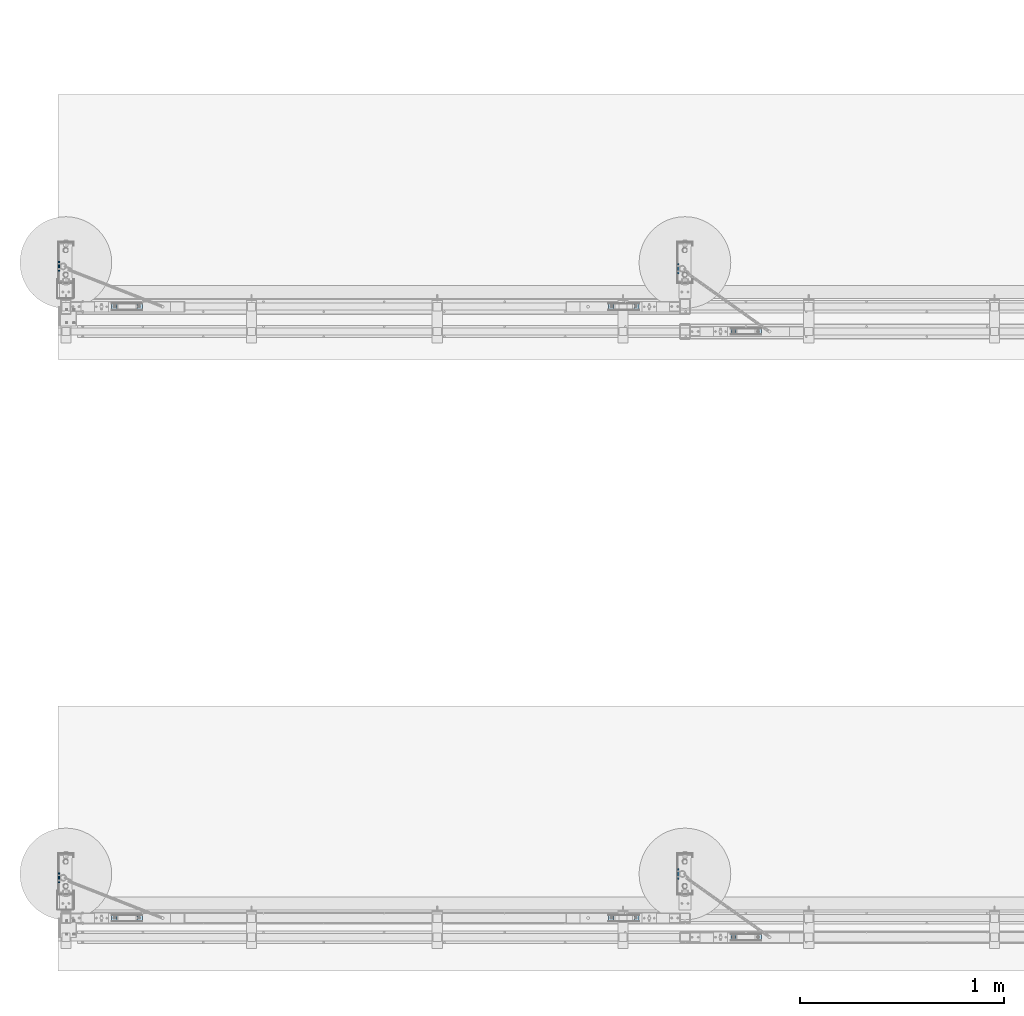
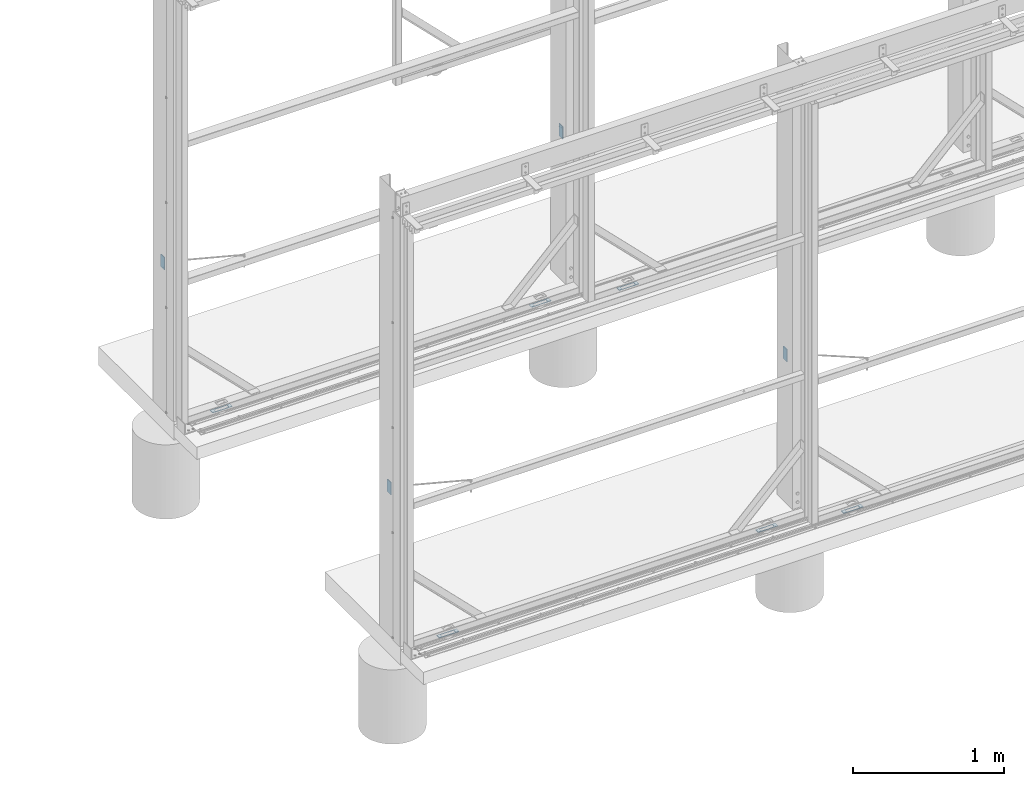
# One storey, part 10 of 91: 10 plates, 10 elements without a shape of their own.
"""IFC2X3 building model written with IfcOpenShell, lengths in millimetres."""

from ifc_helpers import new_model, si_unit, frame, origin_with_axes, place, context, subcontext, project, spatial, polyline, outline, extrude, boolean, material, type_object, element, aggregate, save


model = new_model("IFC2X3")

# Units and contexts
model_context = context("Model", 3, precision=1e-05, world=origin_with_axes())
body_context = subcontext(model_context, "Body", "Model", "MODEL_VIEW")
ifc_project = project(units=[si_unit("LENGTHUNIT", "METRE", prefix="MILLI"), si_unit("AREAUNIT", "SQUARE_METRE"), si_unit("VOLUMEUNIT", "CUBIC_METRE"), si_unit("MASSUNIT", "GRAM", prefix="KILO"), si_unit("TIMEUNIT", "SECOND"), si_unit("PLANEANGLEUNIT", "RADIAN"), si_unit("SOLIDANGLEUNIT", "STERADIAN"), si_unit("THERMODYNAMICTEMPERATUREUNIT", "DEGREE_CELSIUS"), si_unit("LUMINOUSINTENSITYUNIT", "LUMEN")], contexts=[model_context])

# Site, building, storey
site_placement = place(None, origin_with_axes())
site = spatial("IfcSite", under=ifc_project, at=site_placement, Name="Undefined", CompositionType="ELEMENT")
building_placement = place(site_placement, origin_with_axes())
building = spatial("IfcBuilding", under=site, at=building_placement, Name="Undefined", CompositionType="ELEMENT")
storey_placement = place(building_placement, origin_with_axes())
storey = spatial("IfcBuildingStorey", under=building, at=storey_placement, Name="Undefined", CompositionType="ELEMENT", Elevation=0.0)

# Assembly, plate
assembly_1_placement = place(storey_placement, origin_with_axes())
assembly_1 = element("IfcElementAssembly", 1, at=assembly_1_placement, inside=storey, Name="PLATE", AssemblyPlace="NOTDEFINED", PredefinedType="RIGID_FRAME")
ifc_material = material(Name="STEEL/250")
plate_type_1 = type_object("IfcPlateType", Name="FL6*50", PredefinedType="NOTDEFINED")
plate_1_placement = place(assembly_1_placement, frame((-113791.442606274, 87923.3982218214, 1112.34), z_axis=(1.0, 0.0, 0.0), x_axis=(0.0, 0.0, 1.0)))
plate_1 = element("IfcPlate", 2, at=plate_1_placement, type_object=plate_type_1, material=ifc_material, Name="PLATE", ObjectType="FL6*50", context=body_context, shape_type="SweptSolid", body=[
    extrude(outline(polyline([(0.0, 0.0), (100.0, 0.0), (100.0, 50.0), (0.0, 50.0), (0.0, 0.0)])), frame((0.0, 0.0, -3.0), z_axis=(0.0, 0.0, 1.0), x_axis=(1.0, 0.0, 0.0)), (0.0, 0.0, 1.0), 6.0),
])
aggregate(assembly_1, [plate_1])

assembly_2_placement = place(storey_placement, origin_with_axes())
assembly_2 = element("IfcElementAssembly", 3, at=assembly_2_placement, inside=storey, Name="PLATE", AssemblyPlace="NOTDEFINED", PredefinedType="RIGID_FRAME")
plate_2_placement = place(assembly_2_placement, frame((-116828.942606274, 87934.8982218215, 1112.34), z_axis=(1.0, 0.0, 0.0), x_axis=(0.0, 0.0, 1.0)))
plate_2 = element("IfcPlate", 4, at=plate_2_placement, type_object=plate_type_1, material=ifc_material, Name="PLATE", ObjectType="FL6*50", context=body_context, shape_type="SweptSolid", body=[
    extrude(outline(polyline([(0.0, 0.0), (100.0, 0.0), (100.0, 50.0), (0.0, 50.0), (0.0, 0.0)])), frame((0.0, 0.0, -3.0), z_axis=(0.0, 0.0, 1.0), x_axis=(1.0, 0.0, 0.0)), (0.0, 0.0, 1.0), 6.0),
])
aggregate(assembly_2, [plate_2])

assembly_3_placement = place(storey_placement, origin_with_axes())
assembly_3 = element("IfcElementAssembly", 5, at=assembly_3_placement, inside=storey, Name="PLATE", AssemblyPlace="NOTDEFINED", PredefinedType="RIGID_FRAME")
plate_3_placement = place(assembly_3_placement, frame((-113791.442606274, 84953.6482218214, 1112.34), z_axis=(1.0, 0.0, 0.0), x_axis=(0.0, 0.0, 1.0)))
plate_3 = element("IfcPlate", 6, at=plate_3_placement, type_object=plate_type_1, material=ifc_material, Name="PLATE", ObjectType="FL6*50", context=body_context, shape_type="SweptSolid", body=[
    extrude(outline(polyline([(0.0, 0.0), (100.0, 0.0), (100.0, 50.0), (0.0, 50.0), (0.0, 0.0)])), frame((0.0, 0.0, -3.0), z_axis=(0.0, 0.0, 1.0), x_axis=(1.0, 0.0, 0.0)), (0.0, 0.0, 1.0), 6.0),
])
aggregate(assembly_3, [plate_3])

assembly_4_placement = place(storey_placement, origin_with_axes())
assembly_4 = element("IfcElementAssembly", 7, at=assembly_4_placement, inside=storey, Name="PLATE", AssemblyPlace="NOTDEFINED", PredefinedType="RIGID_FRAME")
plate_4_placement = place(assembly_4_placement, frame((-116828.942606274, 84934.8982218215, 1112.34), z_axis=(1.0, 0.0, 0.0), x_axis=(0.0, 0.0, 1.0)))
plate_4 = element("IfcPlate", 8, at=plate_4_placement, type_object=plate_type_1, material=ifc_material, Name="PLATE", ObjectType="FL6*50", context=body_context, shape_type="SweptSolid", body=[
    extrude(outline(polyline([(0.0, 0.0), (100.0, 0.0), (100.0, 50.0), (0.0, 50.0), (0.0, 0.0)])), frame((0.0, 0.0, -3.0), z_axis=(0.0, 0.0, 1.0), x_axis=(1.0, 0.0, 0.0)), (0.0, 0.0, 1.0), 6.0),
])
aggregate(assembly_4, [plate_4])

assembly_5_placement = place(storey_placement, origin_with_axes())
assembly_5 = element("IfcElementAssembly", 9, at=assembly_5_placement, inside=storey, Name="PLATE", AssemblyPlace="NOTDEFINED", PredefinedType="RIGID_FRAME")
plate_type_2 = type_object("IfcPlateType", Name="PLT2*33", PredefinedType="NOTDEFINED")
plate_5_placement = place(assembly_5_placement, frame((-113533.34, 87573.65, -18.0), z_axis=(0.0, 0.0, -1.0), x_axis=(0.0, 1.0, 0.0)))
plate_5 = element("IfcPlate", 10, at=plate_5_placement, type_object=plate_type_2, material=ifc_material, Name="PLATE", ObjectType="PLT2*33", context=body_context, shape_type="CSG", body=[
    boolean("DIFFERENCE", extrude(outline(polyline([(0.0, 0.0), (33.0, 0.0), (33.0, 150.0), (0.0, 150.0), (0.0, 0.0)])), frame((0.0, 0.0, -1.0), z_axis=(0.0, 0.0, 1.0), x_axis=(1.0, 0.0, 0.0)), (0.0, 0.0, 1.0), 2.0), extrude(outline(polyline([(0.0, 0.0), (27.0, 0.0), (27.0, 100.0), (0.0, 100.0), (0.0, 0.0)])), frame((30.0037103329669, 25.0032500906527, 3.5), z_axis=(0.0, 0.0, -1.0), x_axis=(-1.0, 0.0, 0.0)), (0.0, 0.0, 1.0), 7.0)),
])
aggregate(assembly_5, [plate_5])

assembly_6_placement = place(storey_placement, origin_with_axes())
assembly_6 = element("IfcElementAssembly", 11, at=assembly_6_placement, inside=storey, Name="PLATE", AssemblyPlace="NOTDEFINED", PredefinedType="RIGID_FRAME")
plate_6_placement = place(assembly_6_placement, frame((-114133.34, 87695.65, -18.0), z_axis=(0.0, 0.0, -1.0), x_axis=(0.0, 1.0, 0.0)))
plate_6 = element("IfcPlate", 12, at=plate_6_placement, type_object=plate_type_2, material=ifc_material, Name="PLATE", ObjectType="PLT2*33", context=body_context, shape_type="CSG", body=[
    boolean("DIFFERENCE", extrude(outline(polyline([(0.0, 0.0), (33.0, 0.0), (33.0, 150.0), (0.0, 150.0), (0.0, 0.0)])), frame((0.0, 0.0, -1.0), z_axis=(0.0, 0.0, 1.0), x_axis=(1.0, 0.0, 0.0)), (0.0, 0.0, 1.0), 2.0), extrude(outline(polyline([(0.0, 0.0), (27.0, 0.0), (27.0, 100.0), (0.0, 100.0), (0.0, 0.0)])), frame((30.0037103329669, 25.0032500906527, 3.5), z_axis=(0.0, 0.0, -1.0), x_axis=(-1.0, 0.0, 0.0)), (0.0, 0.0, 1.0), 7.0)),
])
aggregate(assembly_6, [plate_6])

assembly_7_placement = place(storey_placement, origin_with_axes())
assembly_7 = element("IfcElementAssembly", 13, at=assembly_7_placement, inside=storey, Name="PLATE", AssemblyPlace="NOTDEFINED", PredefinedType="RIGID_FRAME")
plate_7_placement = place(assembly_7_placement, frame((-116570.84, 87695.65, -18.0), z_axis=(0.0, 0.0, -1.0), x_axis=(0.0, 1.0, 0.0)))
plate_7 = element("IfcPlate", 14, at=plate_7_placement, type_object=plate_type_2, material=ifc_material, Name="PLATE", ObjectType="PLT2*33", context=body_context, shape_type="CSG", body=[
    boolean("DIFFERENCE", extrude(outline(polyline([(0.0, 0.0), (33.0, 0.0), (33.0, 150.0), (0.0, 150.0), (0.0, 0.0)])), frame((0.0, 0.0, -1.0), z_axis=(0.0, 0.0, 1.0), x_axis=(1.0, 0.0, 0.0)), (0.0, 0.0, 1.0), 2.0), extrude(outline(polyline([(0.0, 0.0), (27.0, 0.0), (27.0, 100.0), (0.0, 100.0), (0.0, 0.0)])), frame((30.0037103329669, 25.0032500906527, 3.5), z_axis=(0.0, 0.0, -1.0), x_axis=(-1.0, 0.0, 0.0)), (0.0, 0.0, 1.0), 7.0)),
])
aggregate(assembly_7, [plate_7])

assembly_8_placement = place(storey_placement, origin_with_axes())
assembly_8 = element("IfcElementAssembly", 15, at=assembly_8_placement, inside=storey, Name="PLATE", AssemblyPlace="NOTDEFINED", PredefinedType="RIGID_FRAME")
plate_8_placement = place(assembly_8_placement, frame((-113533.34, 84601.65, -18.0), z_axis=(0.0, 0.0, -1.0), x_axis=(0.0, 1.0, 0.0)))
plate_8 = element("IfcPlate", 16, at=plate_8_placement, type_object=plate_type_2, material=ifc_material, Name="PLATE", ObjectType="PLT2*33", context=body_context, shape_type="CSG", body=[
    boolean("DIFFERENCE", extrude(outline(polyline([(0.0, 0.0), (33.0, 0.0), (33.0, 150.0), (0.0, 150.0), (0.0, 0.0)])), frame((0.0, 0.0, -1.0), z_axis=(0.0, 0.0, 1.0), x_axis=(1.0, 0.0, 0.0)), (0.0, 0.0, 1.0), 2.0), extrude(outline(polyline([(0.0, 0.0), (27.0, 0.0), (27.0, 100.0), (0.0, 100.0), (0.0, 0.0)])), frame((30.0037103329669, 25.0032500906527, 3.5), z_axis=(0.0, 0.0, -1.0), x_axis=(-1.0, 0.0, 0.0)), (0.0, 0.0, 1.0), 7.0)),
])
aggregate(assembly_8, [plate_8])

assembly_9_placement = place(storey_placement, origin_with_axes())
assembly_9 = element("IfcElementAssembly", 17, at=assembly_9_placement, inside=storey, Name="PLATE", AssemblyPlace="NOTDEFINED", PredefinedType="RIGID_FRAME")
plate_9_placement = place(assembly_9_placement, frame((-114133.34, 84695.65, -18.0), z_axis=(0.0, 0.0, -1.0), x_axis=(0.0, 1.0, 0.0)))
plate_9 = element("IfcPlate", 18, at=plate_9_placement, type_object=plate_type_2, material=ifc_material, Name="PLATE", ObjectType="PLT2*33", context=body_context, shape_type="CSG", body=[
    boolean("DIFFERENCE", extrude(outline(polyline([(0.0, 0.0), (33.0, 0.0), (33.0, 150.0), (0.0, 150.0), (0.0, 0.0)])), frame((0.0, 0.0, -1.0), z_axis=(0.0, 0.0, 1.0), x_axis=(1.0, 0.0, 0.0)), (0.0, 0.0, 1.0), 2.0), extrude(outline(polyline([(0.0, 0.0), (27.0, 0.0), (27.0, 100.0), (0.0, 100.0), (0.0, 0.0)])), frame((30.0037103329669, 25.0032500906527, 3.5), z_axis=(0.0, 0.0, -1.0), x_axis=(-1.0, 0.0, 0.0)), (0.0, 0.0, 1.0), 7.0)),
])
aggregate(assembly_9, [plate_9])

assembly_10_placement = place(storey_placement, origin_with_axes())
assembly_10 = element("IfcElementAssembly", 19, at=assembly_10_placement, inside=storey, Name="PLATE", AssemblyPlace="NOTDEFINED", PredefinedType="RIGID_FRAME")
plate_10_placement = place(assembly_10_placement, frame((-116570.84, 84695.65, -18.0), z_axis=(0.0, 0.0, -1.0), x_axis=(0.0, 1.0, 0.0)))
plate_10 = element("IfcPlate", 20, at=plate_10_placement, type_object=plate_type_2, material=ifc_material, Name="PLATE", ObjectType="PLT2*33", context=body_context, shape_type="CSG", body=[
    boolean("DIFFERENCE", extrude(outline(polyline([(0.0, 0.0), (33.0, 0.0), (33.0, 150.0), (0.0, 150.0), (0.0, 0.0)])), frame((0.0, 0.0, -1.0), z_axis=(0.0, 0.0, 1.0), x_axis=(1.0, 0.0, 0.0)), (0.0, 0.0, 1.0), 2.0), extrude(outline(polyline([(0.0, 0.0), (27.0, 0.0), (27.0, 100.0), (0.0, 100.0), (0.0, 0.0)])), frame((30.0037103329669, 25.0032500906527, 3.5), z_axis=(0.0, 0.0, -1.0), x_axis=(-1.0, 0.0, 0.0)), (0.0, 0.0, 1.0), 7.0)),
])
aggregate(assembly_10, [plate_10])

save(model, "model.ifc")
